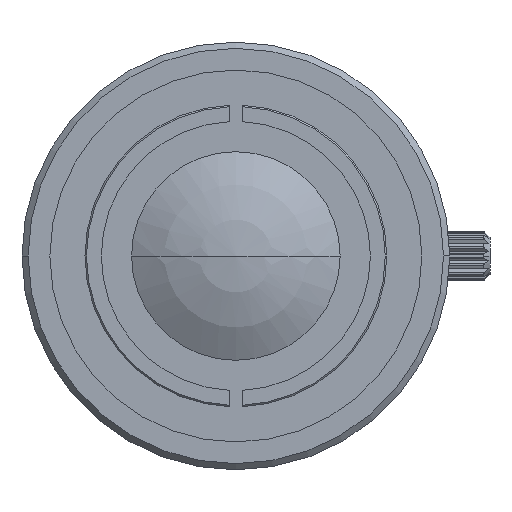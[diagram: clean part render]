
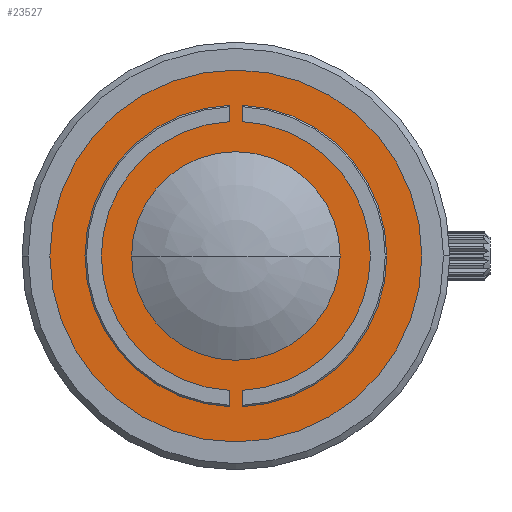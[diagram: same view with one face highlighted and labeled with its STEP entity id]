
A CAD part, left-side view. The second image highlights one B-rep face of the part: STEP entity #23527.
In plain terms, the highlighted planar face has unit normal (-1, 0, 0).
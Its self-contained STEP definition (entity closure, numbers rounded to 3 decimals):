
#5100=CARTESIAN_POINT('',(2.385,0.,0.));
#5101=DIRECTION('',(1.,0.,0.));
#5102=DIRECTION('',(0.,-1.,0.));
#5103=AXIS2_PLACEMENT_3D('',#5100,#5101,#5102);
#5105=CARTESIAN_POINT('',(2.385,0.,0.));
#5106=DIRECTION('',(1.,0.,0.));
#5107=DIRECTION('',(0.,1.,0.));
#5108=AXIS2_PLACEMENT_3D('',#5105,#5106,#5107);
#5110=DIRECTION('',(0.,0.,-1.));
#5111=VECTOR('',#5110,1.323);
#5112=CARTESIAN_POINT('',(2.385,-0.5,-10.838));
#5113=LINE('',#5112,#5111);
#5114=CARTESIAN_POINT('',(2.385,0.,
0.));
#5115=DIRECTION('',(-1.,0.,0.));
#5116=DIRECTION('',(0.,-0.041,-0.999));
#5117=AXIS2_PLACEMENT_3D('',#5114,#5115,#5116);
#5119=DIRECTION('',(0.,0.,-1.));
#5120=VECTOR('',#5119,1.323);
#5121=CARTESIAN_POINT('',(2.385,-0.5,12.161));
#5122=LINE('',#5121,#5120);
#5123=CARTESIAN_POINT('',(2.385,0.,0.));
#5124=DIRECTION('',(1.,0.,0.));
#5125=DIRECTION('',(0.,-0.046,0.999));
#5126=AXIS2_PLACEMENT_3D('',#5123,#5124,#5125);
#5128=CARTESIAN_POINT('',(2.385,0.,0.));
#5129=DIRECTION('',(1.,0.,0.));
#5130=DIRECTION('',(0.,-1.,0.));
#5131=AXIS2_PLACEMENT_3D('',#5128,#5129,#5130);
#5133=CARTESIAN_POINT('',(2.385,0.,0.));
#5134=DIRECTION('',(-1.,0.,0.));
#5135=DIRECTION('',(0.,1.,0.));
#5136=AXIS2_PLACEMENT_3D('',#5133,#5134,#5135);
#5138=CARTESIAN_POINT('',(2.385,0.,0.));
#5139=DIRECTION('',(-1.,0.,0.));
#5140=DIRECTION('',(0.,-1.,0.));
#5141=AXIS2_PLACEMENT_3D('',#5138,#5139,#5140);
#5143=DIRECTION('',(0.,0.,1.));
#5144=VECTOR('',#5143,1.323);
#5145=CARTESIAN_POINT('',(2.385,0.5,10.838));
#5146=LINE('',#5145,#5144);
#5147=CARTESIAN_POINT('',(2.385,0.,0.));
#5148=DIRECTION('',(-1.,0.,0.));
#5149=DIRECTION('',(0.,0.041,0.999));
#5150=AXIS2_PLACEMENT_3D('',#5147,#5148,#5149);
#5152=DIRECTION('',(0.,0.,1.));
#5153=VECTOR('',#5152,1.323);
#5154=CARTESIAN_POINT('',(2.385,0.5,-12.161));
#5155=LINE('',#5154,#5153);
#5156=CARTESIAN_POINT('',(2.385,0.,0.));
#5157=DIRECTION('',(1.,0.,0.));
#5158=DIRECTION('',(0.,0.046,-0.999));
#5159=AXIS2_PLACEMENT_3D('',#5156,#5157,#5158);
#5161=CARTESIAN_POINT('',(2.385,0.,0.));
#5162=DIRECTION('',(1.,0.,0.));
#5163=DIRECTION('',(0.,1.,0.));
#5164=AXIS2_PLACEMENT_3D('',#5161,#5162,#5163);
#18278=CARTESIAN_POINT('',(2.385,15.5,0.));
#18279=VERTEX_POINT('',#18278);
#18280=CARTESIAN_POINT('',(2.385,-15.5,0.));
#18281=VERTEX_POINT('',#18280);
#18282=CARTESIAN_POINT('',(2.385,-0.5,-10.838));
#18283=CARTESIAN_POINT('',(2.385,-0.5,-12.161));
#18284=VERTEX_POINT('',#18282);
#18285=VERTEX_POINT('',#18283);
#18286=CARTESIAN_POINT('',(2.385,-0.5,12.161));
#18287=VERTEX_POINT('',#18286);
#18288=CARTESIAN_POINT('',(2.385,-0.5,10.838));
#18289=VERTEX_POINT('',#18288);
#18290=CARTESIAN_POINT('',(2.385,-10.85,0.));
#18291=VERTEX_POINT('',#18290);
#18292=CARTESIAN_POINT('',(2.385,8.411,0.));
#18293=CARTESIAN_POINT('',(2.385,-8.411,0.));
#18294=VERTEX_POINT('',#18292);
#18295=VERTEX_POINT('',#18293);
#18296=CARTESIAN_POINT('',(2.385,0.5,10.838));
#18297=CARTESIAN_POINT('',(2.385,0.5,12.161));
#18298=VERTEX_POINT('',#18296);
#18299=VERTEX_POINT('',#18297);
#18300=CARTESIAN_POINT('',(2.385,0.5,-12.161));
#18301=VERTEX_POINT('',#18300);
#18302=CARTESIAN_POINT('',(2.385,0.5,-10.838));
#18303=VERTEX_POINT('',#18302);
#18304=CARTESIAN_POINT('',(2.385,10.85,0.));
#18305=VERTEX_POINT('',#18304);
#23488=CARTESIAN_POINT('',(2.385,0.,0.));
#23489=DIRECTION('',(-1.,0.,0.));
#23490=DIRECTION('',(0.,1.,0.));
#23491=AXIS2_PLACEMENT_3D('',#23488,#23489,#23490);
#23492=PLANE('',#23491);
#23493=ORIENTED_EDGE('',*,*,#23481,.T.);
#23494=ORIENTED_EDGE('',*,*,#23470,.T.);
#23495=EDGE_LOOP('',(#23493,#23494));
#23496=FACE_OUTER_BOUND('',#23495,.F.);
#23498=ORIENTED_EDGE('',*,*,#23497,.T.);
#23500=ORIENTED_EDGE('',*,*,#23499,.T.);
#23502=ORIENTED_EDGE('',*,*,#23501,.T.);
#23504=ORIENTED_EDGE('',*,*,#23503,.T.);
#23506=ORIENTED_EDGE('',*,*,#23505,.T.);
#23507=EDGE_LOOP('',(#23498,#23500,#23502,#23504,#23506));
#23508=FACE_BOUND('',#23507,.F.);
#23510=ORIENTED_EDGE('',*,*,#23509,.T.);
#23512=ORIENTED_EDGE('',*,*,#23511,.T.);
#23513=EDGE_LOOP('',(#23510,#23512));
#23514=FACE_BOUND('',#23513,.F.);
#23516=ORIENTED_EDGE('',*,*,#23515,.T.);
#23518=ORIENTED_EDGE('',*,*,#23517,.T.);
#23520=ORIENTED_EDGE('',*,*,#23519,.T.);
#23522=ORIENTED_EDGE('',*,*,#23521,.T.);
#23524=ORIENTED_EDGE('',*,*,#23523,.T.);
#23525=EDGE_LOOP('',(#23516,#23518,#23520,#23522,#23524));
#23526=FACE_BOUND('',#23525,.F.);
#5104=CIRCLE('',#5103,15.5);
#5109=CIRCLE('',#5108,15.5);
#5118=CIRCLE('',#5117,12.171);
#5127=CIRCLE('',#5126,10.85);
#5132=CIRCLE('',#5131,10.85);
#5137=CIRCLE('',#5136,8.411);
#5142=CIRCLE('',#5141,8.411);
#5151=CIRCLE('',#5150,12.171);
#5160=CIRCLE('',#5159,10.85);
#5165=CIRCLE('',#5164,10.85);
#23470=EDGE_CURVE('',#18279,#18281,#5109,.T.);
#23481=EDGE_CURVE('',#18281,#18279,#5104,.T.);
#23497=EDGE_CURVE('',#18284,#18285,#5113,.T.);
#23499=EDGE_CURVE('',#18285,#18287,#5118,.T.);
#23501=EDGE_CURVE('',#18287,#18289,#5122,.T.);
#23503=EDGE_CURVE('',#18289,#18291,#5127,.T.);
#23505=EDGE_CURVE('',#18291,#18284,#5132,.T.);
#23509=EDGE_CURVE('',#18294,#18295,#5137,.T.);
#23511=EDGE_CURVE('',#18295,#18294,#5142,.T.);
#23515=EDGE_CURVE('',#18298,#18299,#5146,.T.);
#23517=EDGE_CURVE('',#18299,#18301,#5151,.T.);
#23519=EDGE_CURVE('',#18301,#18303,#5155,.T.);
#23521=EDGE_CURVE('',#18303,#18305,#5160,.T.);
#23523=EDGE_CURVE('',#18305,#18298,#5165,.T.);
#23527=ADVANCED_FACE('',(#23496,#23508,#23514,#23526),#23492,.T.);
